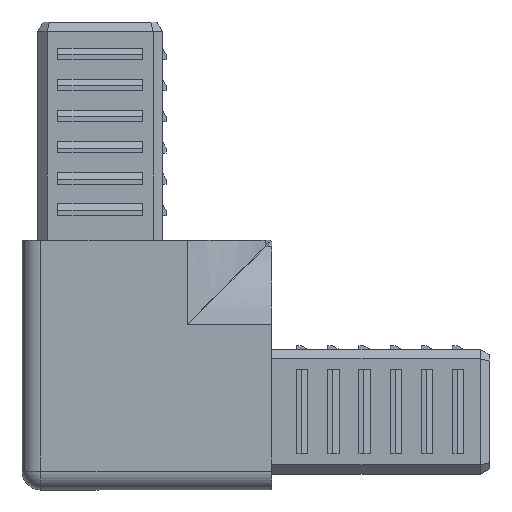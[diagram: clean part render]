
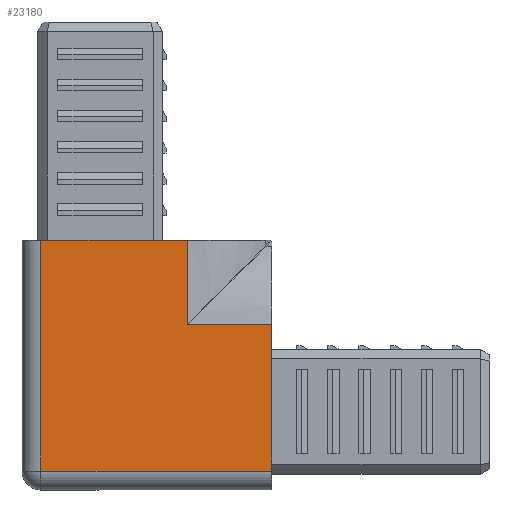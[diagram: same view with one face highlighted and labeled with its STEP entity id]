
A CAD part, top view. The second image highlights one B-rep face of the part: STEP entity #23180.
In plain terms, the highlighted planar face has unit normal (0, 0, 1).
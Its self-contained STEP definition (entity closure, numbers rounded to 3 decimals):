
#1088 = CARTESIAN_POINT ( 'NONE',  ( 6.513, 6.5, 12.5 ) ) ;
#1679 = DIRECTION ( 'NONE',  ( 0., 0., -1. ) ) ;
#2524 = VERTEX_POINT ( 'NONE', #17892 ) ;
#2558 = DIRECTION ( 'NONE',  ( -1., 0., 0. ) ) ;
#2705 = DIRECTION ( 'NONE',  ( 0., -1., 0. ) ) ;
#3648 = VECTOR ( 'NONE', #7416, 1000. ) ;
#3790 = CARTESIAN_POINT ( 'NONE',  ( 6.502, 6.507, 12.5 ) ) ;
#3911 = CARTESIAN_POINT ( 'NONE',  ( 6.5, 6.514, 12.5 ) ) ;
#5160 = EDGE_CURVE ( 'NONE', #10307, #25502, #17802, .T. ) ;
#5905 = CARTESIAN_POINT ( 'NONE',  ( -17., 20., 12.5 ) ) ;
#6743 = CARTESIAN_POINT ( 'NONE',  ( 6.502, 6.506, 12.5 ) ) ;
#7416 = DIRECTION ( 'NONE',  ( -1., 0., 0. ) ) ;
#7764 = DIRECTION ( 'NONE',  ( 0., -1., 0. ) ) ;
#7901 = CARTESIAN_POINT ( 'NONE',  ( 0., -17., 12.5 ) ) ;
#8100 = CARTESIAN_POINT ( 'NONE',  ( -17., 0., 12.5 ) ) ;
#8148 = CARTESIAN_POINT ( 'NONE',  ( 6.5, 6.515, 12.5 ) ) ;
#8767 = EDGE_CURVE ( 'NONE', #29383, #32103, #32430, .T. ) ;
#9325 = CARTESIAN_POINT ( 'NONE',  ( 6.509, 6.501, 12.5 ) ) ;
#9403 = ORIENTED_EDGE ( 'NONE', *, *, #12552, .F. ) ;
#9819 = DIRECTION ( 'NONE',  ( -1., 0., 0. ) ) ;
#10213 = LINE ( 'NONE', #23263, #25845 ) ;
#10307 = VERTEX_POINT ( 'NONE', #31849 ) ;
#10655 = ORIENTED_EDGE ( 'NONE', *, *, #12874, .T. ) ;
#11941 = CARTESIAN_POINT ( 'NONE',  ( 6.504, 6.503, 12.5 ) ) ;
#12171 = CARTESIAN_POINT ( 'NONE',  ( 6.515, 6.5, 12.5 ) ) ;
#12552 = EDGE_CURVE ( 'NONE', #29383, #15107, #10213, .T. ) ;
#12781 = VECTOR ( 'NONE', #7764, 1000. ) ;
#12874 = EDGE_CURVE ( 'NONE', #2524, #15107, #26517, .T. ) ;
#14651 = CARTESIAN_POINT ( 'NONE',  ( 6.5, 6.511, 12.5 ) ) ;
#14771 = CARTESIAN_POINT ( 'NONE',  ( 6.505, 6.502, 12.5 ) ) ;
#15107 = VERTEX_POINT ( 'NONE', #8148 ) ;
#15281 = ORIENTED_EDGE ( 'NONE', *, *, #20954, .T. ) ;
#16132 = VECTOR ( 'NONE', #2558, 1000. ) ;
#16681 = VERTEX_POINT ( 'NONE', #25936 ) ;
#16991 = CARTESIAN_POINT ( 'NONE',  ( 6.5, 20., 12.5 ) ) ;
#17262 = CARTESIAN_POINT ( 'NONE',  ( 6.501, 6.508, 12.5 ) ) ;
#17385 = CARTESIAN_POINT ( 'NONE',  ( 6.5, 6.513, 12.5 ) ) ;
#17493 = FACE_OUTER_BOUND ( 'NONE', #30849, .T. ) ;
#17802 = LINE ( 'NONE', #7901, #16132 ) ;
#17892 = CARTESIAN_POINT ( 'NONE',  ( 6.515, 6.5, 12.5 ) ) ;
#18482 = CARTESIAN_POINT ( 'NONE',  ( 20., -20., 12.5 ) ) ;
#19949 = LINE ( 'NONE', #8100, #12781 ) ;
#20094 = CARTESIAN_POINT ( 'NONE',  ( 6.5, 6.514, 12.5 ) ) ;
#20455 = CARTESIAN_POINT ( 'NONE',  ( 6.504, 6.504, 12.5 ) ) ;
#20577 = DIRECTION ( 'NONE',  ( -1., 0., 0. ) ) ;
#20954 = EDGE_CURVE ( 'NONE', #32103, #25502, #19949, .T. ) ;
#22308 = ORIENTED_EDGE ( 'NONE', *, *, #33226, .F. ) ;
#22695 = CARTESIAN_POINT ( 'NONE',  ( 6.508, 6.501, 12.5 ) ) ;
#22827 = CARTESIAN_POINT ( 'NONE',  ( 0., 0., 12.5 ) ) ;
#22927 = CARTESIAN_POINT ( 'NONE',  ( 6.507, 6.501, 12.5 ) ) ;
#23161 = CARTESIAN_POINT ( 'NONE',  ( 6.5, 6.515, 12.5 ) ) ;
#23178 = VECTOR ( 'NONE', #32087, 1000. ) ;
#23180 = ADVANCED_FACE ( 'NONE', ( #17493 ), #33706, .F. ) ;
#23263 = CARTESIAN_POINT ( 'NONE',  ( 6.5, 0., 12.5 ) ) ;
#23421 = CARTESIAN_POINT ( 'NONE',  ( -17., -17., 12.5 ) ) ;
#23624 = VECTOR ( 'NONE', #9819, 1000. ) ;
#25255 = ORIENTED_EDGE ( 'NONE', *, *, #33485, .T. ) ;
#25502 = VERTEX_POINT ( 'NONE', #23421 ) ;
#25643 = CARTESIAN_POINT ( 'NONE',  ( 6.511, 6.5, 12.5 ) ) ;
#25764 = CARTESIAN_POINT ( 'NONE',  ( 6.5, 6.509, 12.5 ) ) ;
#25845 = VECTOR ( 'NONE', #2705, 1000. ) ;
#25936 = CARTESIAN_POINT ( 'NONE',  ( 20., 6.5, 12.5 ) ) ;
#26517 = B_SPLINE_CURVE_WITH_KNOTS ( 'NONE', 3,
 ( #12171, #1088, #25643, #9325, #22695, #22927, #14771, #11941, #20455, #33580, #6743, #3790, #17262, #25764, #14651, #17385, #20094, #3911, #23161 ),
 .UNSPECIFIED., .F., .F.,
 ( 4, 3, 3, 3, 3, 3, 4 ),
 ( 0., 0., 0., 0., 0., 0., 0. ),
 .UNSPECIFIED. ) ;
#28250 = AXIS2_PLACEMENT_3D ( 'NONE', #22827, #1679, #20577 ) ;
#29370 = ORIENTED_EDGE ( 'NONE', *, *, #5160, .F. ) ;
#29383 = VERTEX_POINT ( 'NONE', #16991 ) ;
#29553 = LINE ( 'NONE', #18482, #23178 ) ;
#30785 = LINE ( 'NONE', #30996, #23624 ) ;
#30849 = EDGE_LOOP ( 'NONE', ( #15281, #29370, #22308, #25255, #10655, #9403, #31865 ) ) ;
#30996 = CARTESIAN_POINT ( 'NONE',  ( 0., 6.5, 12.5 ) ) ;
#31849 = CARTESIAN_POINT ( 'NONE',  ( 20., -17., 12.5 ) ) ;
#31865 = ORIENTED_EDGE ( 'NONE', *, *, #8767, .T. ) ;
#32087 = DIRECTION ( 'NONE',  ( 0., -1., 0. ) ) ;
#32103 = VERTEX_POINT ( 'NONE', #5905 ) ;
#32430 = LINE ( 'NONE', #34701, #3648 ) ;
#33226 = EDGE_CURVE ( 'NONE', #16681, #10307, #29553, .T. ) ;
#33485 = EDGE_CURVE ( 'NONE', #16681, #2524, #30785, .T. ) ;
#33580 = CARTESIAN_POINT ( 'NONE',  ( 6.503, 6.505, 12.5 ) ) ;
#33706 = PLANE ( 'NONE',  #28250 ) ;
#34701 = CARTESIAN_POINT ( 'NONE',  ( -20., 20., 12.5 ) ) ;
